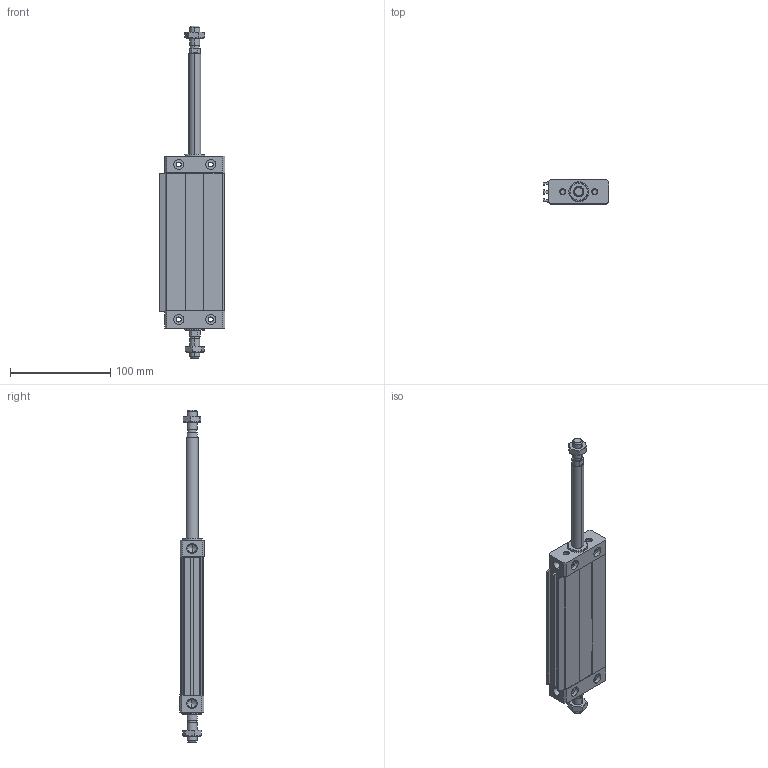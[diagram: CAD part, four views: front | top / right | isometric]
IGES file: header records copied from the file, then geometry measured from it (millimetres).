
Global section: file name: No Iges File Name specified; native system: Autodesk Inventor 2011; preprocessor: AutoDesk Inventor Iges Exporter R2011; author: airolcr1; date: 20101213.153005; units: millimetre
Bounding box: 65.5 x 24 x 332 mm (x, y, z)
Volume: 186299.9 mm3; surface area: 80463.1 mm2
Topology: 6 solids, 6 shells, 274 faces, 646 edges, 392 vertices
Faces by surface type: bspline 110, plane 96, cone 36, cylinder 18, revolution 14
